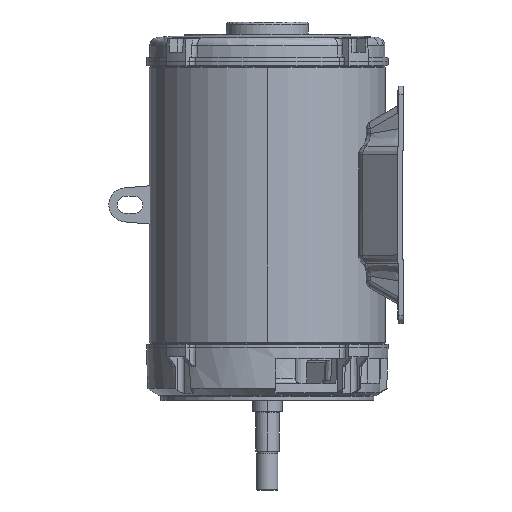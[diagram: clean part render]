
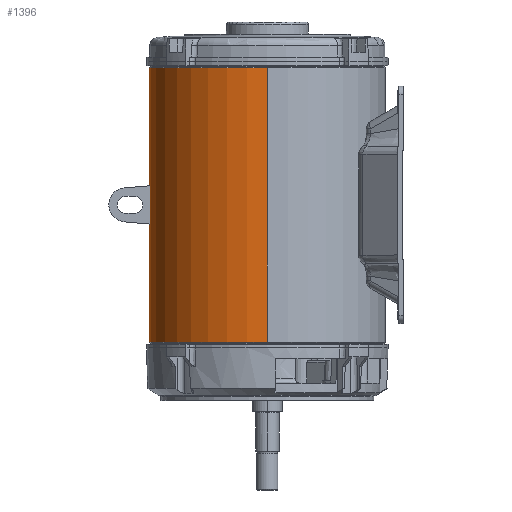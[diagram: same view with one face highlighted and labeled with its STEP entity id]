
A CAD part, left-side view. The second image highlights one B-rep face of the part: STEP entity #1396.
In plain terms, the highlighted cylindrical face has radius 176.042 mm (diameter 352.085 mm), a partial arc.
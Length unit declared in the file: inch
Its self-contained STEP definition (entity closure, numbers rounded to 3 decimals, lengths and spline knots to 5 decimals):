
#141=CARTESIAN_POINT('',(0.,0.,8.06072));
#142=DIRECTION('',(0.,0.,1.));
#143=DIRECTION('',(1.,0.,0.));
#144=AXIS2_PLACEMENT_3D('',#141,#142,#143);
#146=CARTESIAN_POINT('',(0.,0.,8.06072));
#147=DIRECTION('',(0.,0.,1.));
#148=DIRECTION('',(0.,1.,0.));
#149=AXIS2_PLACEMENT_3D('',#146,#147,#148);
#151=CARTESIAN_POINT('',(-6.9308,0.,
-3.40964));
#152=CARTESIAN_POINT('',(-6.9308,0.07729,
-3.40964));
#153=CARTESIAN_POINT('',(-6.9282,0.23942,
-3.40872));
#154=CARTESIAN_POINT('',(-6.91435,0.50312,
-3.40311));
#155=CARTESIAN_POINT('',(-6.88762,0.79206,
-3.39299));
#156=CARTESIAN_POINT('',(-6.84439,1.10804,-3.37706));
#157=CARTESIAN_POINT('',(-6.80135,1.33887,-3.36153));
#158=CARTESIAN_POINT('',(-6.77555,1.45874,-3.352));
#160=CARTESIAN_POINT('',(-6.77555,1.45874,-3.352));
#161=CARTESIAN_POINT('',(-6.76463,1.50945,-3.34797));
#162=CARTESIAN_POINT('',(-6.74209,1.60875,-3.35205));
#163=CARTESIAN_POINT('',(-6.70523,1.75585,-3.39431));
#164=CARTESIAN_POINT('',(-6.6693,1.88724,-3.47036));
#165=CARTESIAN_POINT('',(-6.63704,1.99728,-3.57573));
#166=CARTESIAN_POINT('',(-6.61157,2.07961,-3.70387));
#167=CARTESIAN_POINT('',(-6.59525,2.13051,-3.84859));
#168=CARTESIAN_POINT('',(-6.59154,2.14186,-3.94823));
#169=CARTESIAN_POINT('',(-6.59154,2.14186,-3.9995));
#171=DIRECTION('',(0.,0.,-1.));
#172=VECTOR('',#171,3.);
#173=CARTESIAN_POINT('',(-6.59154,2.14186,-3.9995));
#174=LINE('',#173,#172);
#175=CARTESIAN_POINT('',(-6.59154,2.14186,-6.9995));
#176=CARTESIAN_POINT('',(-6.59153,2.14187,-7.05044));
#177=CARTESIAN_POINT('',(-6.5952,2.13065,-7.14962));
#178=CARTESIAN_POINT('',(-6.6115,2.07982,-7.29479));
#179=CARTESIAN_POINT('',(-6.63694,1.99758,-7.42286));
#180=CARTESIAN_POINT('',(-6.66921,1.88759,-7.52841));
#181=CARTESIAN_POINT('',(-6.70516,1.75611,-7.60454));
#182=CARTESIAN_POINT('',(-6.74199,1.60915,-7.64692));
#183=CARTESIAN_POINT('',(-6.7646,1.50959,-7.65105));
#184=CARTESIAN_POINT('',(-6.77556,1.4587,-7.647));
#186=CARTESIAN_POINT('',(-6.77556,1.4587,-7.647));
#187=CARTESIAN_POINT('',(-6.8015,1.33818,-7.63742));
#188=CARTESIAN_POINT('',(-6.84466,1.1064,-7.62183));
#189=CARTESIAN_POINT('',(-6.88782,0.79032,
-7.60594));
#190=CARTESIAN_POINT('',(-6.91443,0.50194,
-7.59587));
#191=CARTESIAN_POINT('',(-6.92821,0.23911,
-7.59028));
#192=CARTESIAN_POINT('',(-6.9308,0.07722,
-7.58936));
#193=CARTESIAN_POINT('',(-6.9308,0.,
-7.58936));
#195=CARTESIAN_POINT('',(0.,0.,-8.06172));
#196=DIRECTION('',(0.,0.,1.));
#197=DIRECTION('',(0.,1.,0.));
#198=AXIS2_PLACEMENT_3D('',#195,#196,#197);
#200=CARTESIAN_POINT('',(0.,0.,-8.06172));
#201=DIRECTION('',(0.,0.,1.));
#202=DIRECTION('',(1.,0.,0.));
#203=AXIS2_PLACEMENT_3D('',#200,#201,#202);
#205=DIRECTION('',(0.,0.,1.));
#206=VECTOR('',#205,16.12245);
#207=CARTESIAN_POINT('',(6.9308,0.,-8.06172));
#208=LINE('',#207,#206);
#229=DIRECTION('',(0.,0.,1.));
#230=VECTOR('',#229,0.47236);
#231=CARTESIAN_POINT('',(-6.9308,0.,-8.06172));
#232=LINE('',#231,#230);
#275=CARTESIAN_POINT('',(-6.9308,0.,
-3.40964));
#277=DIRECTION('',(0.,0.,1.));
#278=VECTOR('',#277,11.47036);
#279=CARTESIAN_POINT('',(-6.9308,0.,
-3.40964));
#280=LINE('',#279,#278);
#1067=CARTESIAN_POINT('',(6.9308,0.,8.06072));
#1068=CARTESIAN_POINT('',(0.,6.9308,8.06072));
#1069=VERTEX_POINT('',#1067);
#1070=VERTEX_POINT('',#1068);
#1071=CARTESIAN_POINT('',(-6.9308,0.,8.06072));
#1072=VERTEX_POINT('',#1071);
#1077=CARTESIAN_POINT('',(6.9308,0.,-8.06172));
#1078=VERTEX_POINT('',#1077);
#1101=CARTESIAN_POINT('',(0.,6.9308,-8.06172));
#1102=VERTEX_POINT('',#1101);
#1103=CARTESIAN_POINT('',(-6.9308,0.,-8.06172));
#1104=VERTEX_POINT('',#1103);
#1196=VERTEX_POINT('',#160);
#1197=VERTEX_POINT('',#169);
#1200=CARTESIAN_POINT('',(-6.59154,2.14186,
-6.9995));
#1201=VERTEX_POINT('',#1200);
#1204=VERTEX_POINT('',#184);
#1206=VERTEX_POINT('',#193);
#1218=VERTEX_POINT('',#275);
#1366=CARTESIAN_POINT('',(0.,0.,-8.4375));
#1367=DIRECTION('',(0.,0.,1.));
#1368=DIRECTION('',(1.,0.,0.));
#1369=AXIS2_PLACEMENT_3D('',#1366,#1367,#1368);
#1370=CYLINDRICAL_SURFACE('',#1369,6.9308);
#1372=ORIENTED_EDGE('',*,*,#1371,.T.);
#1373=ORIENTED_EDGE('',*,*,#1354,.T.);
#1375=ORIENTED_EDGE('',*,*,#1374,.F.);
#1377=ORIENTED_EDGE('',*,*,#1376,.T.);
#1379=ORIENTED_EDGE('',*,*,#1378,.T.);
#1381=ORIENTED_EDGE('',*,*,#1380,.T.);
#1383=ORIENTED_EDGE('',*,*,#1382,.T.);
#1385=ORIENTED_EDGE('',*,*,#1384,.T.);
#1387=ORIENTED_EDGE('',*,*,#1386,.F.);
#1389=ORIENTED_EDGE('',*,*,#1388,.F.);
#1391=ORIENTED_EDGE('',*,*,#1390,.F.);
#1393=ORIENTED_EDGE('',*,*,#1392,.T.);
#1394=EDGE_LOOP('',(#1372,#1373,#1375,#1377,#1379,#1381,#1383,#1385,#1387,#1389,
#1391,#1393));
#1395=FACE_OUTER_BOUND('',#1394,.F.);
#1396=ADVANCED_FACE('',(#1395),#1370,.T.);
#145=CIRCLE('',#144,6.9308);
#150=CIRCLE('',#149,6.9308);
#159=B_SPLINE_CURVE_WITH_KNOTS('',3,(#151,#152,#153,#154,#155,#156,#157,#158),
.UNSPECIFIED.,.F.,.F.,(4,1,1,1,1,4),(0.,0.2,0.4,0.6,0.8,1.),
.UNSPECIFIED.);
#170=B_SPLINE_CURVE_WITH_KNOTS('',3,(#160,#161,#162,#163,#164,#165,#166,#167,
#168,#169),.UNSPECIFIED.,.F.,.F.,(4,1,1,1,1,1,1,4),(0.,0.14286,
0.28571,0.42857,0.57143,0.71429,
0.85714,1.),.UNSPECIFIED.);
#185=B_SPLINE_CURVE_WITH_KNOTS('',3,(#175,#176,#177,#178,#179,#180,#181,#182,
#183,#184),.UNSPECIFIED.,.F.,.F.,(4,1,1,1,1,1,1,4),(0.,0.14286,
0.28571,0.42857,0.57143,0.71429,
0.85714,1.),.UNSPECIFIED.);
#194=B_SPLINE_CURVE_WITH_KNOTS('',3,(#186,#187,#188,#189,#190,#191,#192,#193),
.UNSPECIFIED.,.F.,.F.,(4,1,1,1,1,4),(0.,0.2,0.4,0.6,0.8,1.),
.UNSPECIFIED.);
#199=CIRCLE('',#198,6.9308);
#204=CIRCLE('',#203,6.9308);
#1354=EDGE_CURVE('',#1070,#1072,#150,.T.);
#1371=EDGE_CURVE('',#1069,#1070,#145,.T.);
#1374=EDGE_CURVE('',#1218,#1072,#280,.T.);
#1376=EDGE_CURVE('',#1218,#1196,#159,.T.);
#1378=EDGE_CURVE('',#1196,#1197,#170,.T.);
#1380=EDGE_CURVE('',#1197,#1201,#174,.T.);
#1382=EDGE_CURVE('',#1201,#1204,#185,.T.);
#1384=EDGE_CURVE('',#1204,#1206,#194,.T.);
#1386=EDGE_CURVE('',#1104,#1206,#232,.T.);
#1388=EDGE_CURVE('',#1102,#1104,#199,.T.);
#1390=EDGE_CURVE('',#1078,#1102,#204,.T.);
#1392=EDGE_CURVE('',#1078,#1069,#208,.T.);
